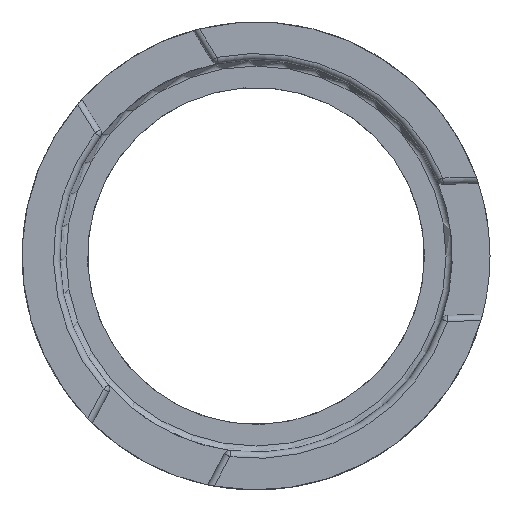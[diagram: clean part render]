
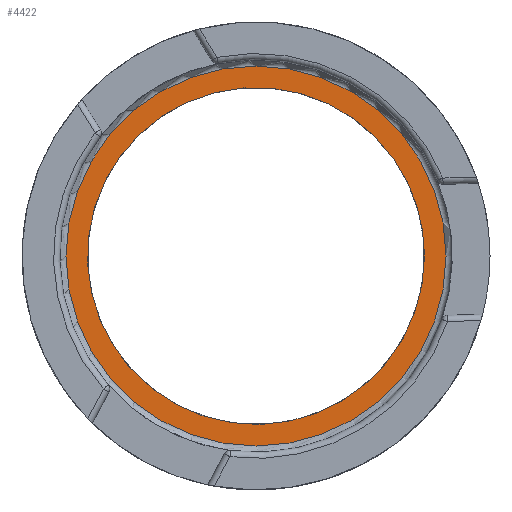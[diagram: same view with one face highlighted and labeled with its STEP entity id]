
A CAD part, top view. The second image highlights one B-rep face of the part: STEP entity #4422.
In plain terms, the highlighted planar face has unit normal (0, 0, 1).
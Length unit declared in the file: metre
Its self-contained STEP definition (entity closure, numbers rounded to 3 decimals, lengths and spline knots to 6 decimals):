
#240=PLANE('',#4710);
#1624=ORIENTED_EDGE('',*,*,#2926,.T.);
#1625=ORIENTED_EDGE('',*,*,#2927,.T.);
#2926=EDGE_CURVE('',#3496,#3496,#3717,.F.);
#2927=EDGE_CURVE('',#3497,#3497,#3718,.T.);
#3496=VERTEX_POINT('',#11313);
#3497=VERTEX_POINT('',#11315);
#3717=CIRCLE('',#4711,0.03045);
#3718=CIRCLE('',#4712,0.027);
#3867=EDGE_LOOP('',(#1624));
#3868=EDGE_LOOP('',(#1625));
#4138=FACE_BOUND('',#3867,.T.);
#4139=FACE_BOUND('',#3868,.T.);
#4422=ADVANCED_FACE('',(#4138,#4139),#240,.F.);
#4710=AXIS2_PLACEMENT_3D('',#11311,#5111,#5112);
#4711=AXIS2_PLACEMENT_3D('',#11312,#5113,#5114);
#4712=AXIS2_PLACEMENT_3D('',#11314,#5115,#5116);
#5111=DIRECTION('',(0.,0.,-1.));
#5112=DIRECTION('',(0.819,0.574,0.));
#5113=DIRECTION('',(0.,0.,-1.));
#5114=DIRECTION('',(1.,0.,0.));
#5115=DIRECTION('',(0.,0.,-1.));
#5116=DIRECTION('',(1.,0.,0.));
#11311=CARTESIAN_POINT('',(0.,0.,0.0718));
#11312=CARTESIAN_POINT('',(0.,0.,0.0718));
#11313=CARTESIAN_POINT('',(0.03045,0.,0.0718));
#11314=CARTESIAN_POINT('',(0.,0.,0.0718));
#11315=CARTESIAN_POINT('',(0.027,0.,0.0718));
